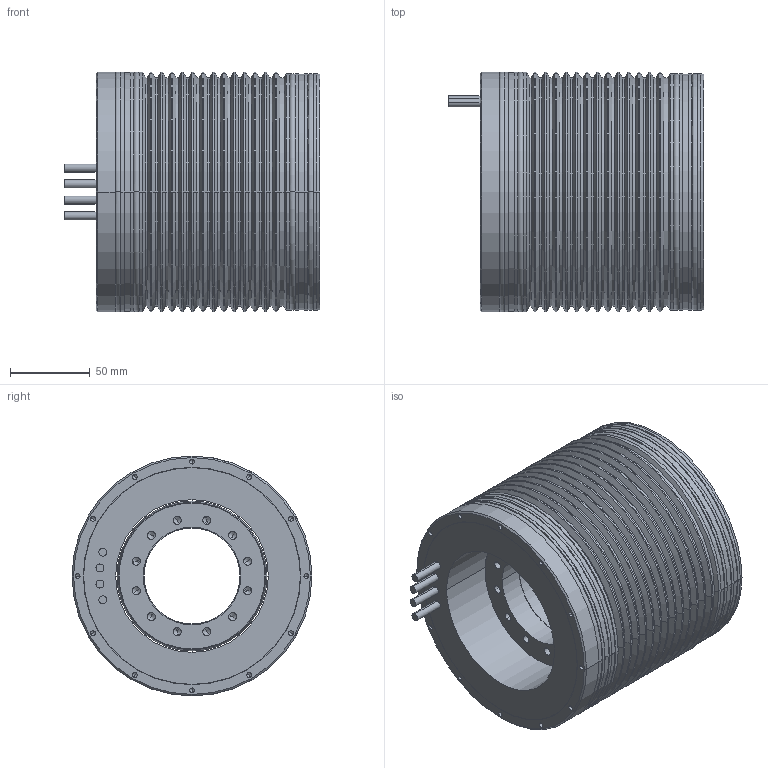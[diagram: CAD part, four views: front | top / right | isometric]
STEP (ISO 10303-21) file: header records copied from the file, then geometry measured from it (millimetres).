
FILE_DESCRIPTION((''),'2;1');
FILE_NAME('TK142-075','2017-10-26T',('stefanos'),(''),'CREO PARAMETRIC BY PTC INC, 2015480','CREO PARAMETRIC BY PTC INC, 2015480','');
FILE_SCHEMA(('CONFIG_CONTROL_DESIGN'));
Length unit declared in the file: millimetre
Products named in the file (1): TK142-075
Bounding box: 160 x 150 x 150 mm (x, y, z)
Volume: 1703017.5 mm3; surface area: 453630.2 mm2
Topology: 9 solids, 9 shells, 415 faces, 902 edges, 488 vertices
Faces by surface type: cylinder 198, cone 148, plane 37, torus 16, revolution 16
Entity records: 12238 total; most frequent: CARTESIAN_POINT 3269, DIRECTION 2064, ORIENTED_EDGE 1660, AXIS2_PLACEMENT_3D 851, EDGE_CURVE 830, VERTEX_POINT 488, EDGE_LOOP 488, CIRCLE 452
